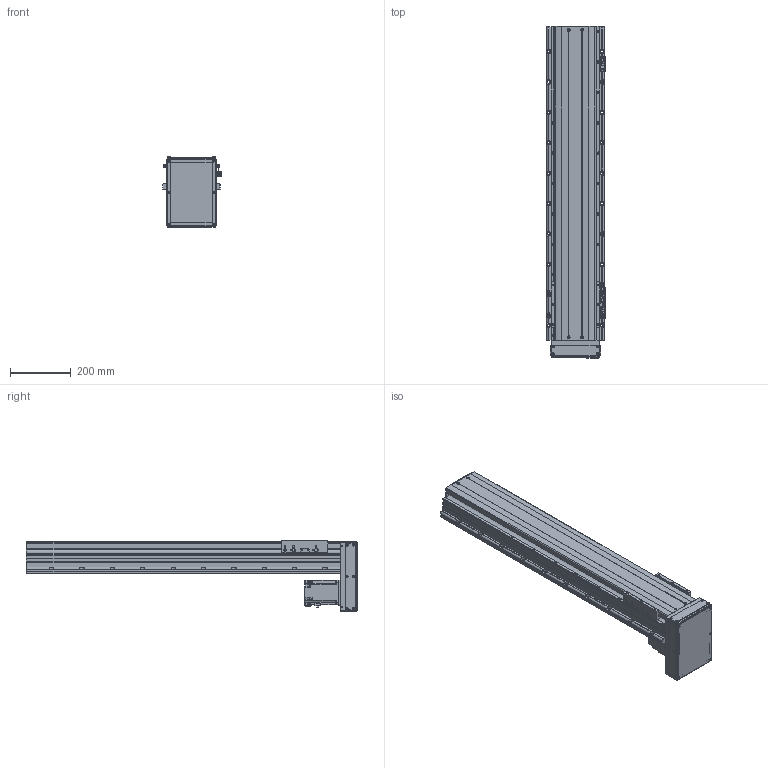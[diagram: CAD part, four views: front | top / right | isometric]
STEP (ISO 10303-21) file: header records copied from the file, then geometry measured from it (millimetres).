
FILE_DESCRIPTION(/* description */ ('MANUFACTURE','CAx-IF Rec.Pracs.---Representation and Presentation of Product Manufacturing Information (PMI)---4.0---2014-10-13'),/* implementation_level */ '2;1');
FILE_NAME(/* name */ '\\192.168.0.160\disk1\HAN SHIN Master\B-설계부문\C-표준\B-2024년\BC02-표준도면\+로봇 개선표준도면\표준 승인도 폴더 - 재작업\3D\HS Type\HS160\D-Type\HS160-D70-N-0800-R10.stp',/* time_stamp */ '2024-08-28T13:14:10+09:00',/* author */ ('user'),/* organization */ (''),/* preprocessor_version */ 'ST-DEVELOPER v18.1',/* originating_system */ 'Autodesk Inventor 2022',/* authorisation */ 'LIP');
FILE_SCHEMA (('AP242_MANAGED_MODEL_BASED_3D_ENGINEERING_MIM_LF { 1 0 10303 442 1 1 4 }'));
Products named in the file (30): HS160 D 70-N-0500-R10 - 간소화; HS160 LR BASE (400W-20Pi); 6004ZZ; 6004ZZ Outer ring; 6004ZZ Shield1; 6004ZZ Inner ring; 6004ZZ Ball; 6004ZZ Shield2; UPCOVER; HR180 FRONT BLOCK; HR180 FRONT BLOCK_1; REAR COVER; STOPPER104; HR120 SENSOR DOG; TABLE; LMKE2020 NUT; NUT HOLDER; hsr_ftht_A-M6F_grease_nipple_joint; NIPPLE CAP(신규); hg-kr73_; 750W MOTOR PLATE; 화살표; SENSOR BRK(EE-SX674A); EE_SX674A; HS160 D MOTOR PLATE; HG160DACRYLCOVER001; HG160DACRYLCOVER003; HG160 D BELT COVER; HG160ACRYLCOVER002; SIDE COVER
Assembly tree (57 placements, depth 3):
  HS160 D 70-N-0500-R10 - 간소화
    HS160 LR BASE (400W-20Pi)
    6004ZZ
      6004ZZ Outer ring
      6004ZZ Shield1
      6004ZZ Inner ring
      6004ZZ Ball  x13
      6004ZZ Shield2
    UPCOVER
    SIDE COVER  x2
    HR180 FRONT BLOCK
    HR180 FRONT BLOCK_1
    REAR COVER
    STOPPER104  x2
    HR120 SENSOR DOG
    SENSOR BRK(EE-SX674A)  x3
    EE_SX674A  x3
    TABLE
    LMKE2020 NUT
    NUT HOLDER
    hsr_ftht_A-M6F_grease_nipple_joint  x5
    NIPPLE CAP(신규)  x5
    화살표  x2
    hg-kr73_
    750W MOTOR PLATE
    HS160 D MOTOR PLATE
    HG160DACRYLCOVER001
    HG160ACRYLCOVER002  x2
    HG160DACRYLCOVER003
    HG160 D BELT COVER
Bounding box: 193.5 x 1092 x 232 mm (x, y, z)
Volume: 7628753.2 mm3; surface area: 1950824.5 mm2
Topology: 56 solids, 56 shells, 2669 faces, 7411 edges, 4818 vertices
Faces by surface type: plane 1238, cylinder 983, cone 335, sphere 57, torus 36, bspline 20
Full cylindrical faces by diameter (mm): 2.459 x40, 3 x32, 3.2 x2, 3.242 x48, 3.4 x22, 3.5 x6, 4.134 x28, 4.2 x8, 4.5 x36, 4.917 x61, 5 x30, 5.5 x25, 5.6 x5, 5.9 x4, 6 x19, 6.5 x16, 6.6 x18, 7 x4, 7.6 x4, 8.376 x20, 9 x6, 9.5 x29, 11 x14, 19 x1, 20 x2, 25 x1, 25.7 x4, 27 x2, 29.5 x1, 30 x1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
Entity records: 76820 total; most frequent: CARTESIAN_POINT 15665, DIRECTION 12316, ORIENTED_EDGE 11130, EDGE_CURVE 5565, AXIS2_PLACEMENT_3D 4617, VERTEX_POINT 3700, LINE 3082, VECTOR 3082
